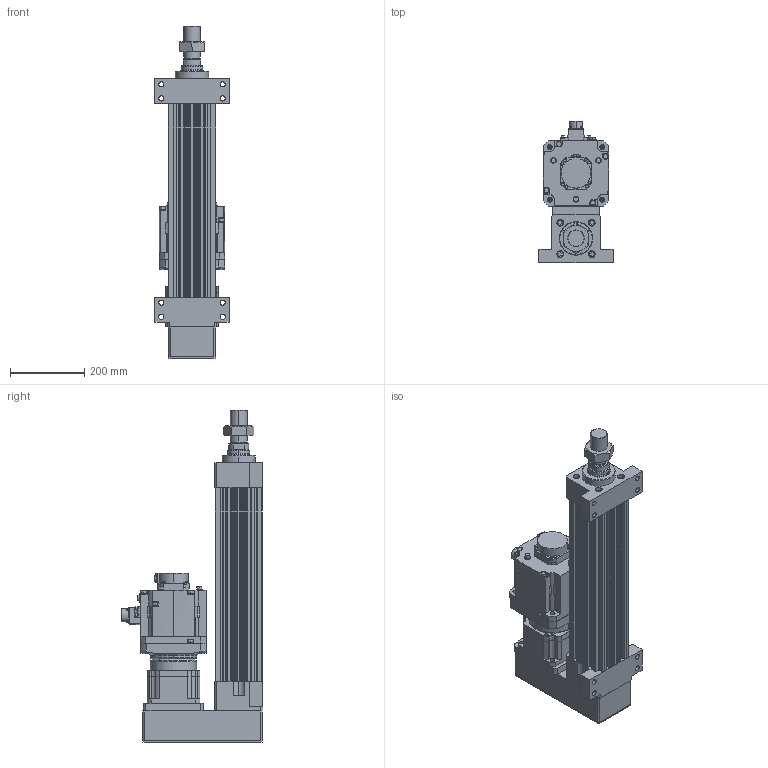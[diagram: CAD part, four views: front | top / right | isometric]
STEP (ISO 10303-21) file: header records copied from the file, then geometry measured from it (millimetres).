
FILE_DESCRIPTION (( 'STEP AP203' ), '1' );
FILE_NAME ('HES130NS(FS)(HS)-P300-W020G00-M-FFB.STEP', '2026-06-10T06:07:38', ( 'tms' ), ( '' ), 'SwSTEP 2.0', 'SolidWorks 2013', '' );
FILE_SCHEMA (( 'CONFIG_CONTROL_DESIGN' ));
Length unit declared in the file: millimetre
Products named in the file (9): M45X1.5P; HES130-P-G142; HES130-M-ROD-300; HES130-FFB-300; HG-SR202B; HES130NS(FS)(HS)-P300-W020G00-M-FFB; AB1422; AB1421; AB1423
Assembly tree (8 placements, depth 2):
  HES130NS(FS)(HS)-P300-W020G00-M-FFB
    HES130-FFB-300
    HES130-M-ROD-300
    M45X1.5P
    HES130-P-G142
    AB1421
    AB1422
    AB1423
    HG-SR202B
Bounding box: 200 x 381.85 x 894 mm (x, y, z)
Volume: 13557271.6 mm3; surface area: 1573731.5 mm2
Topology: 5 solids, 19 shells, 1495 faces, 3890 edges, 2530 vertices
Faces by surface type: cylinder 682, plane 587, cone 144, bspline 76, torus 6
Entity records: 54922 total; most frequent: CARTESIAN_POINT 16717, DIRECTION 7994, ORIENTED_EDGE 7706, EDGE_CURVE 3875, AXIS2_PLACEMENT_3D 3024, VERTEX_POINT 2530, VECTOR 1946, LINE 1946
